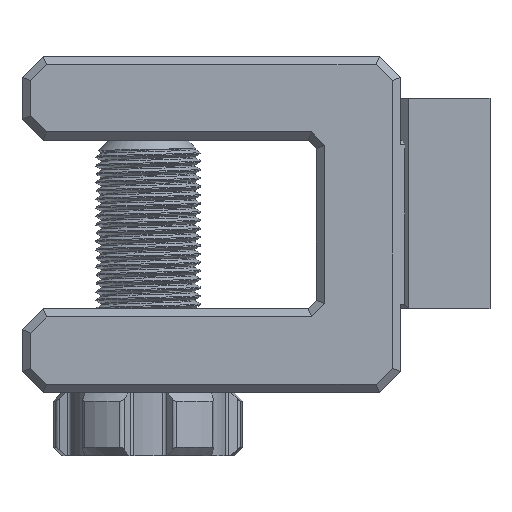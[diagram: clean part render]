
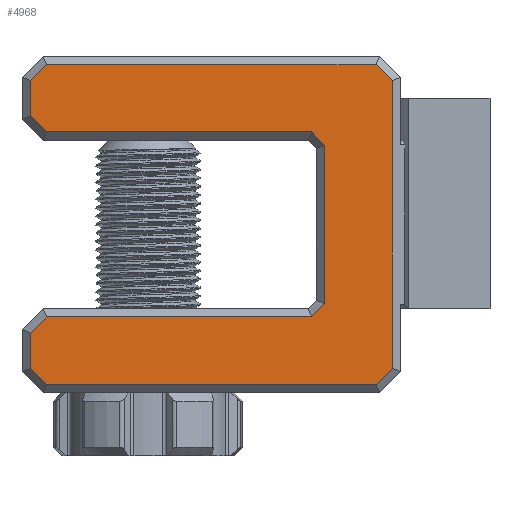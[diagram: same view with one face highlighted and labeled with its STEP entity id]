
A CAD part, left-side view. The second image highlights one B-rep face of the part: STEP entity #4968.
In plain terms, the highlighted planar face has unit normal (-1, 0, 0).
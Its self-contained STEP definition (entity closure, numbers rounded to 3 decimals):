
#637=FACE_OUTER_BOUND('',#920,.T.);
#920=EDGE_LOOP('',(#3729,#3730,#3731,#3732,#3733,#3734,#3735,#3736,#3737,
#3738,#3739,#3740,#3741,#3742,#3743,#3744));
#1134=LINE('',#6688,#1555);
#1222=LINE('',#9903,#1643);
#1226=LINE('',#9911,#1647);
#1229=LINE('',#9917,#1650);
#1232=LINE('',#9922,#1653);
#1234=LINE('',#9926,#1655);
#1237=LINE('',#9931,#1658);
#1240=LINE('',#9937,#1661);
#1243=LINE('',#9943,#1664);
#1246=LINE('',#9949,#1667);
#1249=LINE('',#9955,#1670);
#1252=LINE('',#9961,#1673);
#1255=LINE('',#9967,#1676);
#1258=LINE('',#9973,#1679);
#1261=LINE('',#9979,#1682);
#1264=LINE('',#9983,#1685);
#1555=VECTOR('',#5571,10.);
#1643=VECTOR('',#5757,10.);
#1647=VECTOR('',#5763,10.);
#1650=VECTOR('',#5768,10.);
#1653=VECTOR('',#5773,10.);
#1655=VECTOR('',#5777,10.);
#1658=VECTOR('',#5782,10.);
#1661=VECTOR('',#5787,10.);
#1664=VECTOR('',#5792,10.);
#1667=VECTOR('',#5797,10.);
#1670=VECTOR('',#5802,10.);
#1673=VECTOR('',#5807,10.);
#1676=VECTOR('',#5812,10.);
#1679=VECTOR('',#5817,10.);
#1682=VECTOR('',#5822,10.);
#1685=VECTOR('',#5827,10.);
#1973=VERTEX_POINT('',#6685);
#1974=VERTEX_POINT('',#6687);
#2095=VERTEX_POINT('',#9901);
#2096=VERTEX_POINT('',#9902);
#2099=VERTEX_POINT('',#9910);
#2101=VERTEX_POINT('',#9916);
#2103=VERTEX_POINT('',#9925);
#2104=VERTEX_POINT('',#9930);
#2106=VERTEX_POINT('',#9936);
#2108=VERTEX_POINT('',#9942);
#2110=VERTEX_POINT('',#9948);
#2112=VERTEX_POINT('',#9954);
#2114=VERTEX_POINT('',#9960);
#2116=VERTEX_POINT('',#9966);
#2118=VERTEX_POINT('',#9972);
#2120=VERTEX_POINT('',#9978);
#2477=EDGE_CURVE('',#1973,#1974,#1134,.T.);
#2664=EDGE_CURVE('',#2095,#2096,#1222,.T.);
#2668=EDGE_CURVE('',#2096,#2099,#1226,.T.);
#2671=EDGE_CURVE('',#2099,#2101,#1229,.T.);
#2674=EDGE_CURVE('',#2101,#1973,#1232,.T.);
#2676=EDGE_CURVE('',#1974,#2103,#1234,.T.);
#2679=EDGE_CURVE('',#2103,#2104,#1237,.T.);
#2682=EDGE_CURVE('',#2104,#2106,#1240,.T.);
#2685=EDGE_CURVE('',#2106,#2108,#1243,.T.);
#2688=EDGE_CURVE('',#2108,#2110,#1246,.T.);
#2691=EDGE_CURVE('',#2110,#2112,#1249,.T.);
#2694=EDGE_CURVE('',#2112,#2114,#1252,.T.);
#2697=EDGE_CURVE('',#2114,#2116,#1255,.T.);
#2700=EDGE_CURVE('',#2116,#2118,#1258,.T.);
#2703=EDGE_CURVE('',#2118,#2120,#1261,.T.);
#2706=EDGE_CURVE('',#2120,#2095,#1264,.T.);
#3729=ORIENTED_EDGE('',*,*,#2664,.F.);
#3730=ORIENTED_EDGE('',*,*,#2706,.F.);
#3731=ORIENTED_EDGE('',*,*,#2703,.F.);
#3732=ORIENTED_EDGE('',*,*,#2700,.F.);
#3733=ORIENTED_EDGE('',*,*,#2697,.F.);
#3734=ORIENTED_EDGE('',*,*,#2694,.F.);
#3735=ORIENTED_EDGE('',*,*,#2691,.F.);
#3736=ORIENTED_EDGE('',*,*,#2688,.F.);
#3737=ORIENTED_EDGE('',*,*,#2685,.F.);
#3738=ORIENTED_EDGE('',*,*,#2682,.F.);
#3739=ORIENTED_EDGE('',*,*,#2679,.F.);
#3740=ORIENTED_EDGE('',*,*,#2676,.F.);
#3741=ORIENTED_EDGE('',*,*,#2477,.F.);
#3742=ORIENTED_EDGE('',*,*,#2674,.F.);
#3743=ORIENTED_EDGE('',*,*,#2671,.F.);
#3744=ORIENTED_EDGE('',*,*,#2668,.F.);
#4806=PLANE('',#5256);
#4968=ADVANCED_FACE('',(#637),#4806,.T.);
#5256=AXIS2_PLACEMENT_3D('',#10018,#5861,#5862);
#5571=DIRECTION('',(0.,0.,-1.));
#5757=DIRECTION('',(0.,0.,1.));
#5763=DIRECTION('',(0.,-0.707,0.707));
#5768=DIRECTION('',(0.,-1.,0.));
#5773=DIRECTION('',(0.,-0.707,-0.707));
#5777=DIRECTION('',(0.,0.707,-0.707));
#5782=DIRECTION('',(0.,1.,0.));
#5787=DIRECTION('',(0.,0.707,0.707));
#5792=DIRECTION('',(0.,0.,1.));
#5797=DIRECTION('',(0.,-0.707,0.707));
#5802=DIRECTION('',(0.,-1.,0.));
#5807=DIRECTION('',(0.,-0.707,0.707));
#5812=DIRECTION('',(0.,0.,1.));
#5817=DIRECTION('',(0.,0.707,0.707));
#5822=DIRECTION('',(0.,1.,0.));
#5827=DIRECTION('',(0.,0.707,0.707));
#5861=DIRECTION('center_axis',(-1.,0.,0.));
#5862=DIRECTION('ref_axis',(0.,0.,1.));
#6685=CARTESIAN_POINT('',(-17.5,-53.,34.172));
#6687=CARTESIAN_POINT('',(-17.5,-53.,-34.172));
#6688=CARTESIAN_POINT('',(-17.5,-53.,20.));
#9901=CARTESIAN_POINT('',(-17.5,33.,25.828));
#9902=CARTESIAN_POINT('',(-17.5,33.,34.172));
#9903=CARTESIAN_POINT('',(-17.5,33.,10.));
#9910=CARTESIAN_POINT('',(-17.5,29.172,38.));
#9911=CARTESIAN_POINT('',(-17.5,21.086,46.086));
#9916=CARTESIAN_POINT('',(-17.5,-49.172,38.));
#9917=CARTESIAN_POINT('',(-17.5,-5.,38.));
#9922=CARTESIAN_POINT('',(-17.5,-58.586,28.586));
#9925=CARTESIAN_POINT('',(-17.5,-49.172,-38.));
#9926=CARTESIAN_POINT('',(-17.5,-58.586,-28.586));
#9930=CARTESIAN_POINT('',(-17.5,29.172,-38.));
#9931=CARTESIAN_POINT('',(-17.5,-50.,-38.));
#9936=CARTESIAN_POINT('',(-17.5,33.,-34.172));
#9937=CARTESIAN_POINT('',(-17.5,21.086,-46.086));
#9942=CARTESIAN_POINT('',(-17.5,33.,-25.828));
#9943=CARTESIAN_POINT('',(-17.5,33.,-20.));
#9948=CARTESIAN_POINT('',(-17.5,29.172,-22.));
#9949=CARTESIAN_POINT('',(-17.5,6.086,1.086));
#9954=CARTESIAN_POINT('',(-17.5,-33.828,-22.));
#9955=CARTESIAN_POINT('',(-17.5,-5.,-22.));
#9960=CARTESIAN_POINT('',(-17.5,-37.,-18.828));
#9961=CARTESIAN_POINT('',(-17.5,-42.914,-12.914));
#9966=CARTESIAN_POINT('',(-17.5,-37.,18.828));
#9967=CARTESIAN_POINT('',(-17.5,-37.,-10.));
#9972=CARTESIAN_POINT('',(-17.5,-33.828,22.));
#9973=CARTESIAN_POINT('',(-17.5,-42.914,12.914));
#9978=CARTESIAN_POINT('',(-17.5,29.172,22.));
#9979=CARTESIAN_POINT('',(-17.5,-40.,22.));
#9983=CARTESIAN_POINT('',(-17.5,6.086,-1.086));
#10018=CARTESIAN_POINT('Origin',(-17.5,-45.,0.));
